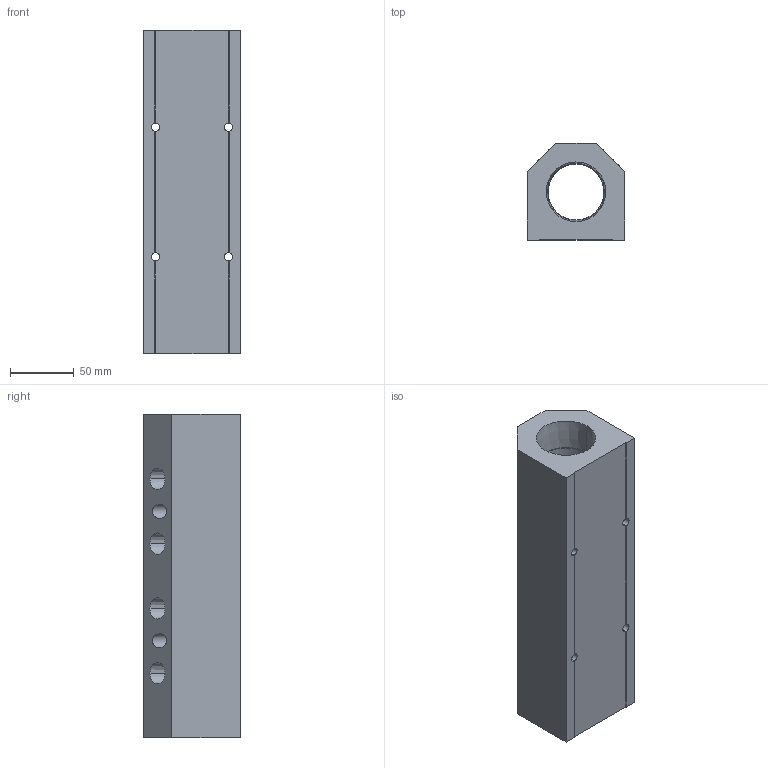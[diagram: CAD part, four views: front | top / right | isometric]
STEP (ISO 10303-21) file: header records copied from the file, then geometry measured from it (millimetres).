
FILE_DESCRIPTION (( 'STEP AP214' ), '1' );
FILE_NAME ('ALM4BCD-N6N24-254R.step', '2022-02-07T07:58:01', ( '' ), ( '' ), 'SwSTEP 2.0', 'SolidWorks 2020', '' );
FILE_SCHEMA (( 'AUTOMOTIVE_DESIGN' ));
Length unit declared in the file: millimetre
Products named in the file (1): ALM4BCD-N6N24-254R
Bounding box: 76.2 x 76.2 x 254 mm (x, y, z)
Volume: 898111.9 mm3; surface area: 124376.5 mm2
Topology: 1 solids, 1 shells, 340 faces, 901 edges, 598 vertices
Faces by surface type: plane 233, bspline 61, cone 28, cylinder 18
Entity records: 18811 total; most frequent: CARTESIAN_POINT 7521, ORIENTED_EDGE 1802, DIRECTION 1359, EDGE_CURVE 901, VECTOR 679, LINE 679, VERTEX_POINT 598, EDGE_LOOP 409
